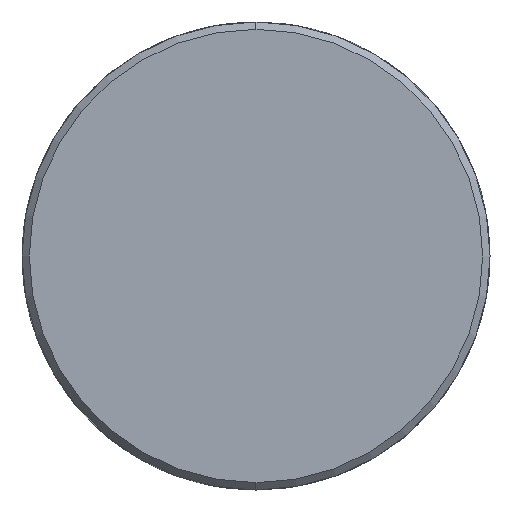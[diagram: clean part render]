
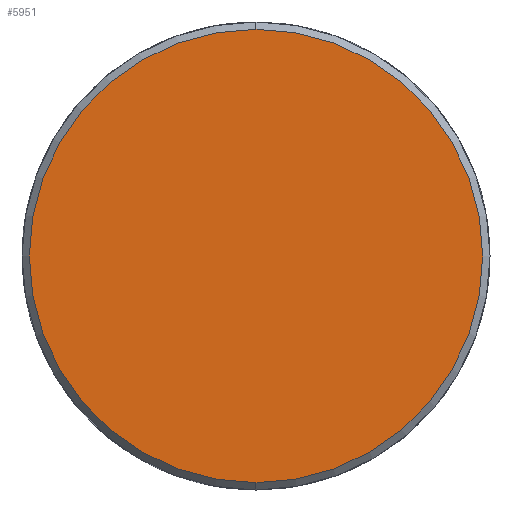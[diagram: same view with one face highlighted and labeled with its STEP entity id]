
A CAD part, left-side view. The second image highlights one B-rep face of the part: STEP entity #5951.
In plain terms, the highlighted planar face has unit normal (-1, 0, 0).
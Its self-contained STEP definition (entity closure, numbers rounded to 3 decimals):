
#656 = EDGE_CURVE ( 'NONE', #3874, #8381, #3843, .T. ) ;
#749 = EDGE_CURVE ( 'NONE', #8381, #3874, #1037, .T. ) ;
#963 = EDGE_LOOP ( 'NONE', ( #4895, #4999 ) ) ;
#1037 = CIRCLE ( 'NONE', #4721, 15.5 ) ;
#2236 = CARTESIAN_POINT ( 'NONE',  ( 0., 0., 0. ) ) ;
#2935 = DIRECTION ( 'NONE',  ( 0., 0., 1. ) ) ;
#3622 = DIRECTION ( 'NONE',  ( 0., 0., -1. ) ) ;
#3631 = DIRECTION ( 'NONE',  ( 1., 0., 0. ) ) ;
#3642 = CARTESIAN_POINT ( 'NONE',  ( 0., 0., 0. ) ) ;
#3680 = DIRECTION ( 'NONE',  ( 0., 0., -1. ) ) ;
#3687 = DIRECTION ( 'NONE',  ( 1., 0., 0. ) ) ;
#3700 = CARTESIAN_POINT ( 'NONE',  ( 0., 0., 0. ) ) ;
#3843 = CIRCLE ( 'NONE', #5544, 15.5 ) ;
#3874 = VERTEX_POINT ( 'NONE', #4171 ) ;
#4171 = CARTESIAN_POINT ( 'NONE',  ( 0., 0., -15.5 ) ) ;
#4721 = AXIS2_PLACEMENT_3D ( 'NONE', #3642, #3631, #3622 ) ;
#4895 = ORIENTED_EDGE ( 'NONE', *, *, #656, .F. ) ;
#4962 = AXIS2_PLACEMENT_3D ( 'NONE', #2236, #6858, #2935 ) ;
#4999 = ORIENTED_EDGE ( 'NONE', *, *, #749, .F. ) ;
#5521 = PLANE ( 'NONE',  #4962 ) ;
#5544 = AXIS2_PLACEMENT_3D ( 'NONE', #3700, #3687, #3680 ) ;
#5951 = ADVANCED_FACE ( 'NONE', ( #8500 ), #5521, .T. ) ;
#6565 = CARTESIAN_POINT ( 'NONE',  ( 0., 0., 15.5 ) ) ;
#6858 = DIRECTION ( 'NONE',  ( -1., 0., 0. ) ) ;
#8381 = VERTEX_POINT ( 'NONE', #6565 ) ;
#8500 = FACE_OUTER_BOUND ( 'NONE', #963, .T. ) ;
